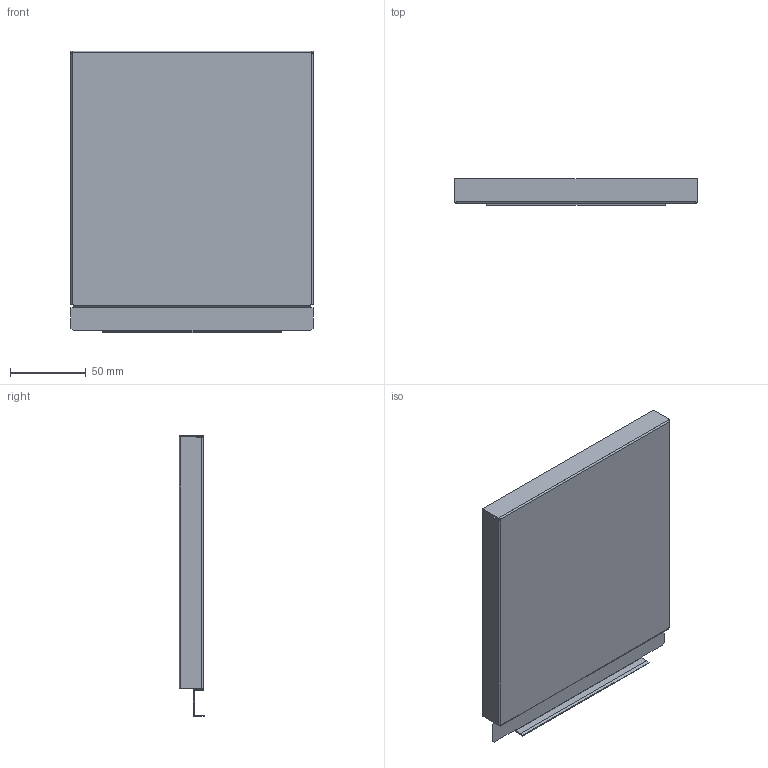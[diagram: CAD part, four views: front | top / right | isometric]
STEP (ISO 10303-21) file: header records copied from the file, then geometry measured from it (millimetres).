
FILE_DESCRIPTION (( 'STEP AP214' ), '1' );
FILE_NAME ('_STRW_H186_KAB_250.step', '2010-08-24T14:40:21', ( 'grass' ), ( '' ), 'SwSTEP 2.0', 'SolidWorks 2009', '' );
FILE_SCHEMA (( 'AUTOMOTIVE_DESIGN' ));
Length unit declared in the file: millimetre
Products named in the file (1): _STRW_H186_KAB_250
Bounding box: 160 x 17 x 186.14 mm (x, y, z)
Volume: 32420.5 mm3; surface area: 81726.7 mm2
Topology: 1 solids, 1 shells, 76 faces, 214 edges, 140 vertices
Faces by surface type: plane 54, cylinder 22
Entity records: 2472 total; most frequent: CARTESIAN_POINT 431, ORIENTED_EDGE 428, DIRECTION 412, EDGE_CURVE 214, LINE 170, VECTOR 170, VERTEX_POINT 140, AXIS2_PLACEMENT_3D 121
